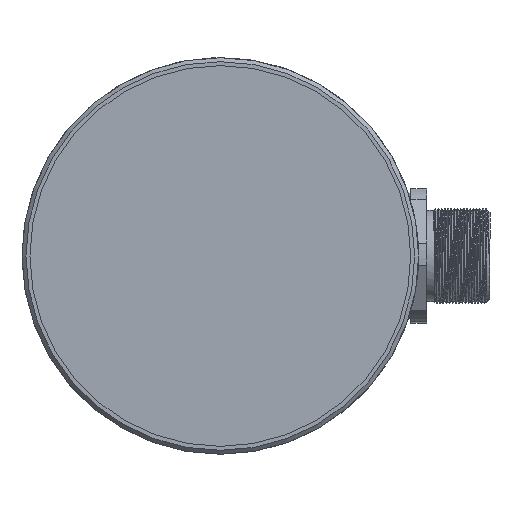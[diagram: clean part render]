
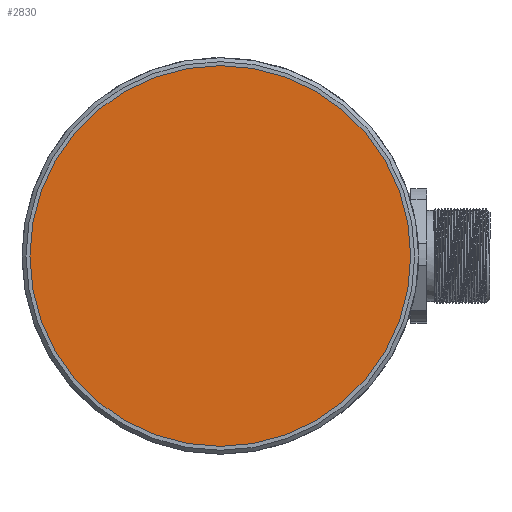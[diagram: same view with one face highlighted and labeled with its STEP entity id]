
A CAD part, left-side view. The second image highlights one B-rep face of the part: STEP entity #2830.
In plain terms, the highlighted planar face has unit normal (-1, 0, 0).
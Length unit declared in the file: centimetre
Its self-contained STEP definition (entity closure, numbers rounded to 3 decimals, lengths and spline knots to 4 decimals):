
#981=PLANE('',#3008);
#1086=CIRCLE('',#3006,2.4);
#1179=EDGE_CURVE('',#2405,#2405,#1086,.T.);
#1530=ORIENTED_EDGE('',*,*,#1179,.T.);
#2191=EDGE_LOOP('',(#1530));
#2405=VERTEX_POINT('',#3242);
#2625=FACE_BOUND('',#2191,.T.);
#2830=ADVANCED_FACE('',(#2625),#981,.T.);
#3006=AXIS2_PLACEMENT_3D('',#3241,#15918,#15919);
#3008=AXIS2_PLACEMENT_3D('',#3245,#15922,$);
#3241=CARTESIAN_POINT('',(0.1,0.,0.));
#3242=CARTESIAN_POINT('',(0.1,0.,2.4));
#3245=CARTESIAN_POINT('',(0.1,0.,0.));
#15918=DIRECTION('',(-1.,0.,0.));
#15919=DIRECTION('',(0.,0.,2.4));
#15922=DIRECTION('',(-1.,0.,0.));
